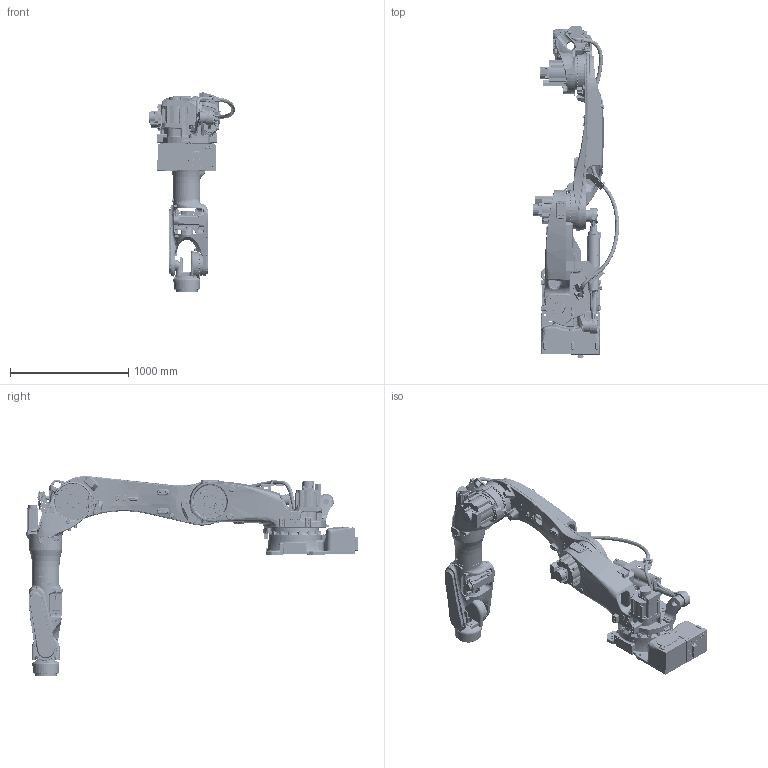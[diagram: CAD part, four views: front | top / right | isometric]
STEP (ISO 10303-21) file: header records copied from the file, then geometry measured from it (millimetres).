
FILE_DESCRIPTION(('CATIA V5 STEP Exchange','CAx-IF Rec.Pracs.--- Composite Materials ---3.4---2017-06-13'),'2;1');
FILE_NAME('\\10.240.18.134\業務_共有\PS\動作確認\2021\#48226_BTPモデル\STL\BTP165L-A001.stp','2021-12-02T01:45:10+00:00',('none'),('none'),'CATIA Version 5-6 Release 2020 SP4 HF11','CATIA V5 STEP AP203 v2','none');
FILE_SCHEMA(('CONFIG_CONTROL_DESIGN'));
Products named in the file (1): BTP165L-A001
Assembly tree (9 placements, depth 2):
  BTP165L-A001
    #57
    #56153
    #167949
    #273880
    #353524
    #455827
    #482335
    #485827
    #503979
Bounding box: 728.8 x 2809.71 x 1692.29 mm (x, y, z)
Volume: 228920429.4 mm3; surface area: 12547484.6 mm2
Topology: 53 solids, 53 shells, 10919 faces, 28114 edges, 17512 vertices
Faces by surface type: plane 3341, cylinder 3291, bspline 2490, cone 865, torus 502, extrusion 188, sphere 162, revolution 80
Entity records: 526913 total; most frequent: CARTESIAN_POINT 303815, ORIENTED_EDGE 55072, DIRECTION 28694, EDGE_CURVE 27536, VERTEX_POINT 17512, AXIS2_PLACEMENT_3D 13159, EDGE_LOOP 11972, ADVANCED_FACE 10919
